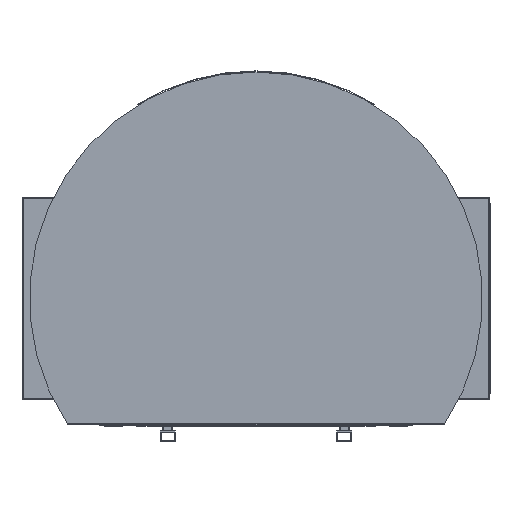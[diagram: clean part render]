
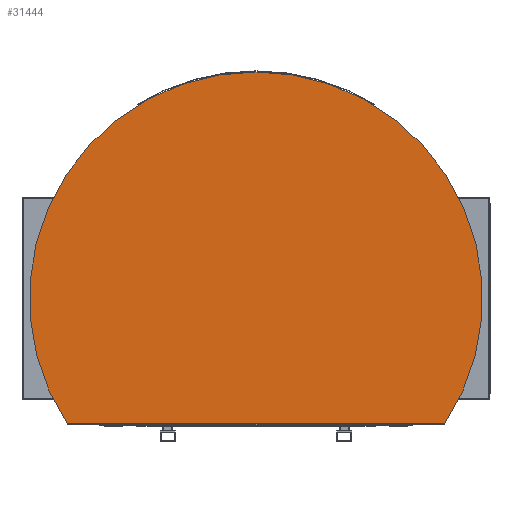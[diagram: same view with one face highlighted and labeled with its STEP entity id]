
A CAD part, left-side view. The second image highlights one B-rep face of the part: STEP entity #31444.
In plain terms, the highlighted planar face has unit normal (-1, 0, 0).
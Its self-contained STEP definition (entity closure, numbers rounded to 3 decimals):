
#31258 = VERTEX_POINT('',#31259);
#31259 = CARTESIAN_POINT('',(1640.,0.,3247.5));
#31268 = CYLINDRICAL_SURFACE('',#31269,897.5);
#31269 = AXIS2_PLACEMENT_3D('',#31270,#31271,#31272);
#31270 = CARTESIAN_POINT('',(1640.,0.,2350.));
#31271 = DIRECTION('',(1.,0.,0.));
#31272 = DIRECTION('',(-0.,0.,1.));
#31280 = CYLINDRICAL_SURFACE('',#31281,897.5);
#31281 = AXIS2_PLACEMENT_3D('',#31282,#31283,#31284);
#31282 = CARTESIAN_POINT('',(1640.,0.,2350.));
#31283 = DIRECTION('',(1.,0.,0.));
#31284 = DIRECTION('',(-0.,0.,1.));
#31322 = VERTEX_POINT('',#31323);
#31323 = CARTESIAN_POINT('',(1640.,747.327,1853.));
#31336 = PLANE('',#31337);
#31337 = AXIS2_PLACEMENT_3D('',#31338,#31339,#31340);
#31338 = CARTESIAN_POINT('',(1639.,-900.,1853.));
#31339 = DIRECTION('',(0.,0.,1.));
#31340 = DIRECTION('',(1.,0.,0.));
#31347 = EDGE_CURVE('',#31322,#31258,#31348,.T.);
#31348 = SURFACE_CURVE('',#31349,(#31354,#31361),.PCURVE_S1.);
#31349 = CIRCLE('',#31350,897.5);
#31350 = AXIS2_PLACEMENT_3D('',#31351,#31352,#31353);
#31351 = CARTESIAN_POINT('',(1640.,0.,2350.));
#31352 = DIRECTION('',(1.,0.,0.));
#31353 = DIRECTION('',(-0.,0.,1.));
#31354 = PCURVE('',#31268,#31355);
#31355 = DEFINITIONAL_REPRESENTATION('',(#31356),#31360);
#31356 = LINE('',#31357,#31358);
#31357 = CARTESIAN_POINT('',(0.,0.));
#31358 = VECTOR('',#31359,1.);
#31359 = DIRECTION('',(1.,0.));
#31360 = ( GEOMETRIC_REPRESENTATION_CONTEXT(2) 
PARAMETRIC_REPRESENTATION_CONTEXT() REPRESENTATION_CONTEXT('2D SPACE',''
  ) );
#31361 = PCURVE('',#31362,#31367);
#31362 = PLANE('',#31363);
#31363 = AXIS2_PLACEMENT_3D('',#31364,#31365,#31366);
#31364 = CARTESIAN_POINT('',(1640.,0.,2350.));
#31365 = DIRECTION('',(1.,0.,0.));
#31366 = DIRECTION('',(-0.,0.,1.));
#31367 = DEFINITIONAL_REPRESENTATION('',(#31368),#31372);
#31368 = CIRCLE('',#31369,897.5);
#31369 = AXIS2_PLACEMENT_2D('',#31370,#31371);
#31370 = CARTESIAN_POINT('',(0.,0.));
#31371 = DIRECTION('',(1.,0.));
#31372 = ( GEOMETRIC_REPRESENTATION_CONTEXT(2) 
PARAMETRIC_REPRESENTATION_CONTEXT() REPRESENTATION_CONTEXT('2D SPACE',''
  ) );
#31402 = EDGE_CURVE('',#31258,#31403,#31405,.T.);
#31403 = VERTEX_POINT('',#31404);
#31404 = CARTESIAN_POINT('',(1640.,-747.327,1853.));
#31405 = SURFACE_CURVE('',#31406,(#31411,#31418),.PCURVE_S1.);
#31406 = CIRCLE('',#31407,897.5);
#31407 = AXIS2_PLACEMENT_3D('',#31408,#31409,#31410);
#31408 = CARTESIAN_POINT('',(1640.,0.,2350.));
#31409 = DIRECTION('',(1.,0.,0.));
#31410 = DIRECTION('',(-0.,0.,1.));
#31411 = PCURVE('',#31280,#31412);
#31412 = DEFINITIONAL_REPRESENTATION('',(#31413),#31417);
#31413 = LINE('',#31414,#31415);
#31414 = CARTESIAN_POINT('',(0.,0.));
#31415 = VECTOR('',#31416,1.);
#31416 = DIRECTION('',(1.,0.));
#31417 = ( GEOMETRIC_REPRESENTATION_CONTEXT(2) 
PARAMETRIC_REPRESENTATION_CONTEXT() REPRESENTATION_CONTEXT('2D SPACE',''
  ) );
#31418 = PCURVE('',#31362,#31419);
#31419 = DEFINITIONAL_REPRESENTATION('',(#31420),#31424);
#31420 = CIRCLE('',#31421,897.5);
#31421 = AXIS2_PLACEMENT_2D('',#31422,#31423);
#31422 = CARTESIAN_POINT('',(0.,0.));
#31423 = DIRECTION('',(1.,0.));
#31424 = ( GEOMETRIC_REPRESENTATION_CONTEXT(2) 
PARAMETRIC_REPRESENTATION_CONTEXT() REPRESENTATION_CONTEXT('2D SPACE',''
  ) );
#31444 = ADVANCED_FACE('',(#31445),#31362,.F.);
#31445 = FACE_BOUND('',#31446,.F.);
#31446 = EDGE_LOOP('',(#31447,#31448,#31449));
#31447 = ORIENTED_EDGE('',*,*,#31347,.T.);
#31448 = ORIENTED_EDGE('',*,*,#31402,.T.);
#31449 = ORIENTED_EDGE('',*,*,#31450,.F.);
#31450 = EDGE_CURVE('',#31322,#31403,#31451,.T.);
#31451 = SURFACE_CURVE('',#31452,(#31456,#31462),.PCURVE_S1.);
#31452 = LINE('',#31453,#31454);
#31453 = CARTESIAN_POINT('',(1640.,-450.,1853.));
#31454 = VECTOR('',#31455,1.);
#31455 = DIRECTION('',(0.,-1.,0.));
#31456 = PCURVE('',#31362,#31457);
#31457 = DEFINITIONAL_REPRESENTATION('',(#31458),#31461);
#31458 = B_SPLINE_CURVE_WITH_KNOTS('',1,(#31459,#31460),.UNSPECIFIED.,
  .F.,.F.,(2,2),(-1347.5,447.5),.PIECEWISE_BEZIER_KNOTS.);
#31459 = CARTESIAN_POINT('',(-497.,-897.5));
#31460 = CARTESIAN_POINT('',(-497.,897.5));
#31461 = ( GEOMETRIC_REPRESENTATION_CONTEXT(2) 
PARAMETRIC_REPRESENTATION_CONTEXT() REPRESENTATION_CONTEXT('2D SPACE',''
  ) );
#31462 = PCURVE('',#31336,#31463);
#31463 = DEFINITIONAL_REPRESENTATION('',(#31464),#31467);
#31464 = B_SPLINE_CURVE_WITH_KNOTS('',1,(#31465,#31466),.UNSPECIFIED.,
  .F.,.F.,(2,2),(-1347.5,447.5),.PIECEWISE_BEZIER_KNOTS.);
#31465 = CARTESIAN_POINT('',(1.,1797.5));
#31466 = CARTESIAN_POINT('',(1.,2.5));
#31467 = ( GEOMETRIC_REPRESENTATION_CONTEXT(2) 
PARAMETRIC_REPRESENTATION_CONTEXT() REPRESENTATION_CONTEXT('2D SPACE',''
  ) );
